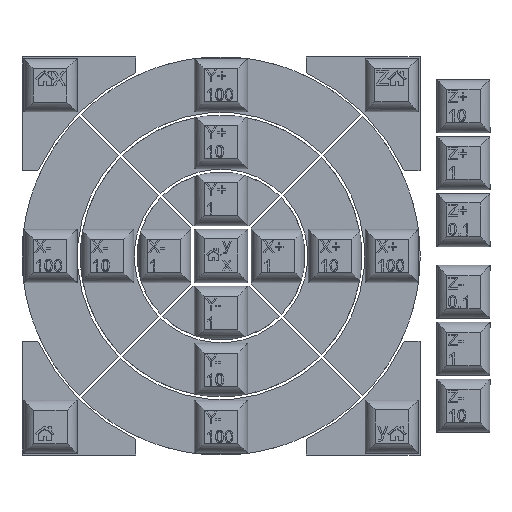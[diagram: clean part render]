
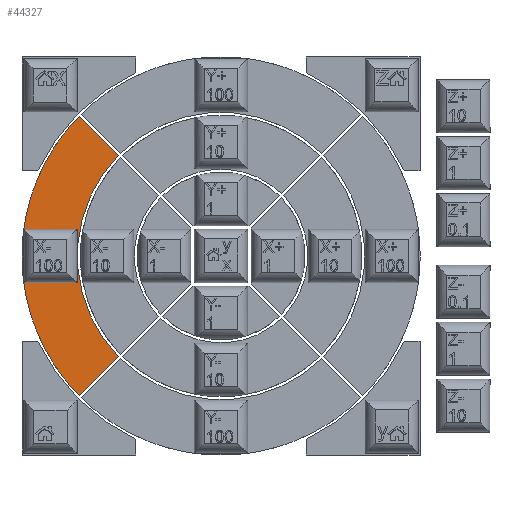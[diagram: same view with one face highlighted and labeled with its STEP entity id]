
A CAD part, top view. The second image highlights one B-rep face of the part: STEP entity #44327.
In plain terms, the highlighted planar face has unit normal (0, 0, 1).
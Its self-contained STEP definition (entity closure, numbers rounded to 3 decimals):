
#937=CIRCLE('',#46974,66.675);
#939=CIRCLE('',#46978,48.125);
#1759=FACE_BOUND('',#7681,.T.);
#4975=FACE_OUTER_BOUND('',#7680,.T.);
#7680=EDGE_LOOP('',(#36540,#36541,#36542,#36543));
#7681=EDGE_LOOP('',(#36544,#36545,#36546,#36547));
#11565=LINE('',#73116,#16106);
#11569=LINE('',#73128,#16110);
#11571=LINE('',#73136,#16112);
#11572=LINE('',#73138,#16113);
#11573=LINE('',#73140,#16114);
#11574=LINE('',#73141,#16115);
#16106=VECTOR('',#54186,10.);
#16110=VECTOR('',#54198,10.);
#16112=VECTOR('',#54208,10.);
#16113=VECTOR('',#54209,10.);
#16114=VECTOR('',#54210,10.);
#16115=VECTOR('',#54211,10.);
#20385=VERTEX_POINT('',#73113);
#20386=VERTEX_POINT('',#73115);
#20388=VERTEX_POINT('',#73121);
#20390=VERTEX_POINT('',#73127);
#20391=VERTEX_POINT('',#73134);
#20392=VERTEX_POINT('',#73135);
#20393=VERTEX_POINT('',#73137);
#20394=VERTEX_POINT('',#73139);
#25977=EDGE_CURVE('',#20386,#20385,#11565,.T.);
#25980=EDGE_CURVE('',#20388,#20386,#937,.T.);
#25983=EDGE_CURVE('',#20390,#20388,#11569,.T.);
#25986=EDGE_CURVE('',#20385,#20390,#939,.T.);
#25987=EDGE_CURVE('',#20391,#20392,#11571,.T.);
#25988=EDGE_CURVE('',#20393,#20391,#11572,.T.);
#25989=EDGE_CURVE('',#20394,#20393,#11573,.T.);
#25990=EDGE_CURVE('',#20392,#20394,#11574,.T.);
#36540=ORIENTED_EDGE('',*,*,#25986,.T.);
#36541=ORIENTED_EDGE('',*,*,#25983,.T.);
#36542=ORIENTED_EDGE('',*,*,#25980,.T.);
#36543=ORIENTED_EDGE('',*,*,#25977,.T.);
#36544=ORIENTED_EDGE('',*,*,#25987,.F.);
#36545=ORIENTED_EDGE('',*,*,#25988,.F.);
#36546=ORIENTED_EDGE('',*,*,#25989,.F.);
#36547=ORIENTED_EDGE('',*,*,#25990,.F.);
#42168=PLANE('',#46979);
#44327=ADVANCED_FACE('',(#4975,#1759),#42168,.T.);
#46974=AXIS2_PLACEMENT_3D('',#73122,#54192,#54193);
#46978=AXIS2_PLACEMENT_3D('',#73132,#54204,#54205);
#46979=AXIS2_PLACEMENT_3D('',#73133,#54206,#54207);
#54186=DIRECTION('',(0.707,0.707,0.));
#54192=DIRECTION('center_axis',(0.,0.,1.));
#54193=DIRECTION('ref_axis',(-0.712,0.702,0.));
#54198=DIRECTION('',(-0.707,0.707,0.));
#54204=DIRECTION('center_axis',(0.,0.,-1.));
#54205=DIRECTION('ref_axis',(-0.714,0.7,0.));
#54206=DIRECTION('center_axis',(0.,0.,1.));
#54207=DIRECTION('ref_axis',(0.,1.,0.));
#54208=DIRECTION('',(0.,-1.,0.));
#54209=DIRECTION('',(-1.,0.,0.));
#54210=DIRECTION('',(0.,1.,0.));
#54211=DIRECTION('',(1.,0.,0.));
#73113=CARTESIAN_POINT('',(-34.381,-33.674,1.2));
#73115=CARTESIAN_POINT('',(-47.499,-46.791,1.2));
#73116=CARTESIAN_POINT('',(-34.381,-33.674,1.2));
#73121=CARTESIAN_POINT('',(-47.499,46.791,1.2));
#73122=CARTESIAN_POINT('Origin',(0.,0.,1.2));
#73127=CARTESIAN_POINT('',(-34.381,33.674,1.2));
#73128=CARTESIAN_POINT('',(-34.381,33.674,1.2));
#73132=CARTESIAN_POINT('Origin',(0.,0.,1.2));
#73133=CARTESIAN_POINT('Origin',(-50.528,0.,
1.2));
#73134=CARTESIAN_POINT('',(-66.05,8.9,1.2));
#73135=CARTESIAN_POINT('',(-66.05,-8.9,1.2));
#73136=CARTESIAN_POINT('',(-66.05,4.763,1.2));
#73137=CARTESIAN_POINT('',(-48.25,8.9,1.2));
#73138=CARTESIAN_POINT('',(-49.077,8.9,1.2));
#73139=CARTESIAN_POINT('',(-48.25,-8.9,1.2));
#73140=CARTESIAN_POINT('',(-48.25,4.763,1.2));
#73141=CARTESIAN_POINT('',(-49.077,-8.9,1.2));
